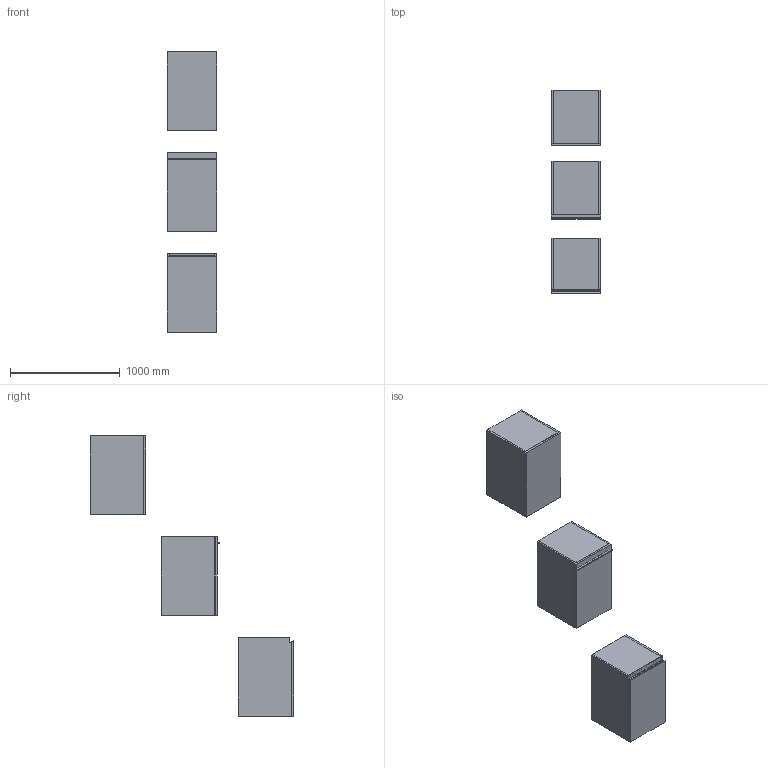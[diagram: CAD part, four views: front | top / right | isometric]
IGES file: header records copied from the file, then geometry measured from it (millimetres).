
Start section: Data from Parasolid IGES Translator 19.0.9, Copyright(c) 2006 Siemens PL M Software. All Rights Reserved.
Global section: file name: noorth-SI-H 72 D 51 W 45_8667.igs; native system: By Siemens PLM Incorporated; preprocessor: XPlus GENERIC/IGES 19.0.9; author: Noname; organization: Noname; date: 20200601.122531; units: metre
Bounding box: 450.01 x 1857.1 x 2560 mm (x, y, z)
Volume: 73637537.3 mm3; surface area: 10888705.9 mm2
Topology: 20 solids, 20 shells, 178 faces, 382 edges, 234 vertices
Faces by surface type: plane 134, extrusion 16, bspline 16, cylinder 12
